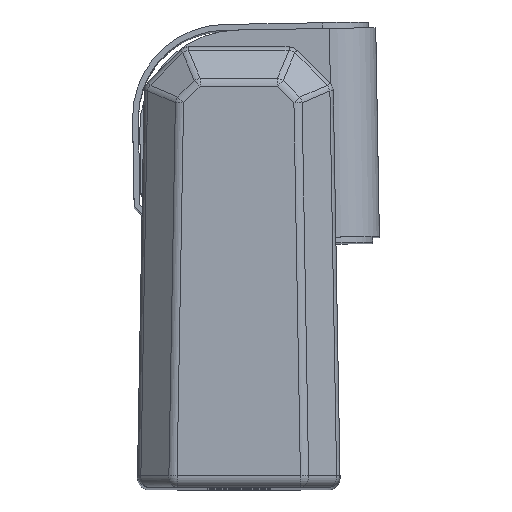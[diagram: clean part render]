
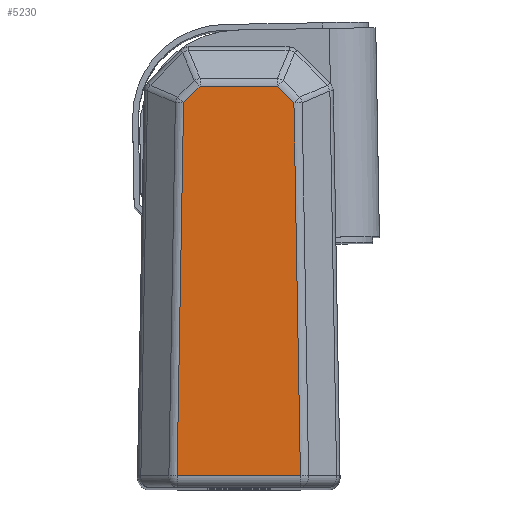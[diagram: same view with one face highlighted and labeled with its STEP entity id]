
A CAD part, top view. The second image highlights one B-rep face of the part: STEP entity #5230.
In plain terms, the highlighted planar face has unit normal (0, 0, 1).
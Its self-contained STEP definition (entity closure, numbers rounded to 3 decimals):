
#483 = CARTESIAN_POINT ( 'NONE',  ( 5.318, 1., 0. ) ) ;
#567 = CARTESIAN_POINT ( 'NONE',  ( 4.756, 33.159, 0. ) ) ;
#570 = CARTESIAN_POINT ( 'NONE',  ( 3.335, 34.582, 0. ) ) ;
#577 = CARTESIAN_POINT ( 'NONE',  ( -3.337, 34.584, 0. ) ) ;
#578 = CARTESIAN_POINT ( 'NONE',  ( -4.756, 33.166, 0. ) ) ;
#579 = CARTESIAN_POINT ( 'NONE',  ( -5.318, 1., 0. ) ) ;
#761 = CARTESIAN_POINT ( 'NONE',  ( -8.087, 38., 0. ) ) ;
#764 = PLANE ( 'NONE',  #7667 ) ;
#766 = DIRECTION ( 'NONE',  ( 0., 0., 1. ) ) ;
#767 = DIRECTION ( 'NONE',  ( 1., 0., 0. ) ) ;
#1448 = LINE ( 'NONE', #2124, #1463 ) ;
#1458 = LINE ( 'NONE', #2143, #1461 ) ;
#1461 = VECTOR ( 'NONE', #2144, 1000. ) ;
#1462 = LINE ( 'NONE', #2146, #1465 ) ;
#1463 = VECTOR ( 'NONE', #2145, 1000. ) ;
#1464 = LINE ( 'NONE', #2148, #1467 ) ;
#1465 = VECTOR ( 'NONE', #2147, 1000. ) ;
#1466 = LINE ( 'NONE', #2150, #1469 ) ;
#1467 = VECTOR ( 'NONE', #2149, 1000. ) ;
#1468 = LINE ( 'NONE', #2152, #1471 ) ;
#1469 = VECTOR ( 'NONE', #2151, 1000. ) ;
#1471 = VECTOR ( 'NONE', #2153, 1000. ) ;
#2124 = CARTESIAN_POINT ( 'NONE',  ( -8.088, 34.586, 0. ) ) ;
#2143 = CARTESIAN_POINT ( 'NONE',  ( -4.081, 42.003, 0. ) ) ;
#2144 = DIRECTION ( 'NONE',  ( -0.707, 0.707, 0. ) ) ;
#2145 = DIRECTION ( 'NONE',  ( -1., 0., 0. ) ) ;
#2146 = CARTESIAN_POINT ( 'NONE',  ( -4.005, 33.916, 0. ) ) ;
#2147 = DIRECTION ( 'NONE',  ( -0.707, -0.707, 0. ) ) ;
#2148 = CARTESIAN_POINT ( 'NONE',  ( -4.673, 37.94, 0. ) ) ;
#2149 = DIRECTION ( 'NONE',  ( -0.017, -1., 0. ) ) ;
#2150 = CARTESIAN_POINT ( 'NONE',  ( -8.087, 1., 0. ) ) ;
#2151 = DIRECTION ( 'NONE',  ( 1., 0., 0. ) ) ;
#2152 = CARTESIAN_POINT ( 'NONE',  ( 4.668, 38.223, 0. ) ) ;
#2153 = DIRECTION ( 'NONE',  ( -0.017, 1., 0. ) ) ;
#4664 = VERTEX_POINT ( 'NONE', #483 ) ;
#4750 = VERTEX_POINT ( 'NONE', #567 ) ;
#4753 = VERTEX_POINT ( 'NONE', #570 ) ;
#4760 = VERTEX_POINT ( 'NONE', #577 ) ;
#4761 = VERTEX_POINT ( 'NONE', #578 ) ;
#4762 = VERTEX_POINT ( 'NONE', #579 ) ;
#5072 = EDGE_LOOP ( 'NONE', ( #6376, #6377, #6378, #6379, #6380, #6381 ) ) ;
#5230 = ADVANCED_FACE ( 'NONE', ( #7411 ), #764, .T. ) ;
#5478 = EDGE_CURVE ( 'NONE', #4750, #4753, #1458, .T. ) ;
#5479 = EDGE_CURVE ( 'NONE', #4753, #4760, #1448, .T. ) ;
#5480 = EDGE_CURVE ( 'NONE', #4760, #4761, #1462, .T. ) ;
#5481 = EDGE_CURVE ( 'NONE', #4761, #4762, #1464, .T. ) ;
#5482 = EDGE_CURVE ( 'NONE', #4762, #4664, #1466, .T. ) ;
#5483 = EDGE_CURVE ( 'NONE', #4664, #4750, #1468, .T. ) ;
#6376 = ORIENTED_EDGE ( 'NONE', *, *, #5478, .T. ) ;
#6377 = ORIENTED_EDGE ( 'NONE', *, *, #5479, .T. ) ;
#6378 = ORIENTED_EDGE ( 'NONE', *, *, #5480, .T. ) ;
#6379 = ORIENTED_EDGE ( 'NONE', *, *, #5481, .T. ) ;
#6380 = ORIENTED_EDGE ( 'NONE', *, *, #5482, .T. ) ;
#6381 = ORIENTED_EDGE ( 'NONE', *, *, #5483, .T. ) ;
#7411 = FACE_OUTER_BOUND ( 'NONE', #5072, .T. ) ;
#7667 = AXIS2_PLACEMENT_3D ( 'NONE', #761, #766, #767 ) ;
